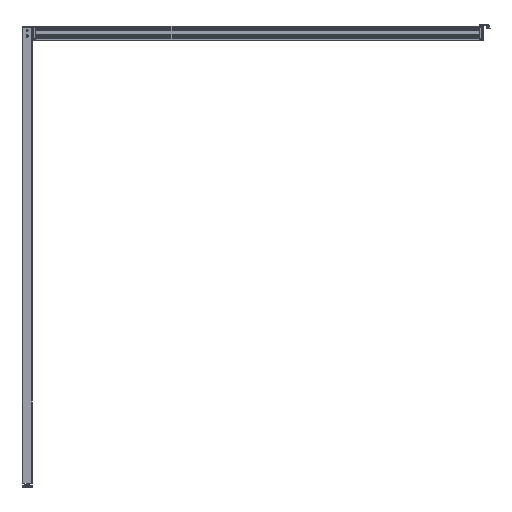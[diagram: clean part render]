
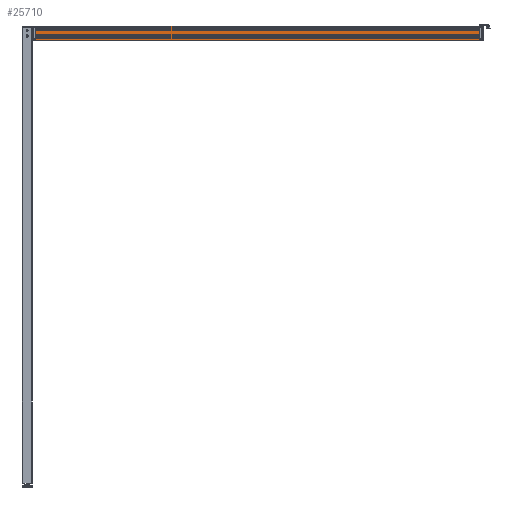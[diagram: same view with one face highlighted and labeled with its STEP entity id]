
A CAD part, left-side view. The second image highlights one B-rep face of the part: STEP entity #25710.
In plain terms, the highlighted planar face has unit normal (-1, 0, 0).
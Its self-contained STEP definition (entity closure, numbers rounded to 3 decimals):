
#2968 = ORIENTED_EDGE ( 'NONE', *, *, #10243, .F. ) ;
#7996 = CARTESIAN_POINT ( 'NONE',  ( 4410., -908.5, 451.784 ) ) ;
#8775 = DIRECTION ( 'NONE',  ( 0., 0., 1. ) ) ;
#9761 = VERTEX_POINT ( 'NONE', #138026 ) ;
#9956 = CARTESIAN_POINT ( 'NONE',  ( 4410., -3604.5, 455.646 ) ) ;
#10243 = EDGE_CURVE ( 'NONE', #136059, #9761, #54904, .T. ) ;
#14787 = DIRECTION ( 'NONE',  ( 0., 0., -1. ) ) ;
#15404 = EDGE_CURVE ( 'NONE', #103835, #136059, #38986, .T. ) ;
#25710 = ADVANCED_FACE ( 'NONE', ( #32764 ), #124974, .T. ) ;
#26390 = LINE ( 'NONE', #51128, #146537 ) ;
#31245 = CARTESIAN_POINT ( 'NONE',  ( 4410., -908.5, 371.646 ) ) ;
#32764 = FACE_OUTER_BOUND ( 'NONE', #39789, .T. ) ;
#38986 = LINE ( 'NONE', #97092, #82687 ) ;
#39789 = EDGE_LOOP ( 'NONE', ( #2968, #88533, #76741, #59635 ) ) ;
#43603 = LINE ( 'NONE', #31245, #95010 ) ;
#44072 = VERTEX_POINT ( 'NONE', #83740 ) ;
#51128 = CARTESIAN_POINT ( 'NONE',  ( 4410., -908.5, 451.784 ) ) ;
#53148 = VECTOR ( 'NONE', #113066, 1000. ) ;
#54904 = LINE ( 'NONE', #138599, #53148 ) ;
#55275 = AXIS2_PLACEMENT_3D ( 'NONE', #7996, #80007, #8775 ) ;
#56376 = EDGE_CURVE ( 'NONE', #103835, #44072, #26390, .T. ) ;
#59635 = ORIENTED_EDGE ( 'NONE', *, *, #62109, .T. ) ;
#62109 = EDGE_CURVE ( 'NONE', #44072, #9761, #43603, .T. ) ;
#73881 = DIRECTION ( 'NONE',  ( 0., -1., 0. ) ) ;
#74259 = CARTESIAN_POINT ( 'NONE',  ( 4410., -908.5, 455.646 ) ) ;
#76741 = ORIENTED_EDGE ( 'NONE', *, *, #56376, .T. ) ;
#80007 = DIRECTION ( 'NONE',  ( -1., 0., 0. ) ) ;
#82687 = VECTOR ( 'NONE', #73881, 1000. ) ;
#83740 = CARTESIAN_POINT ( 'NONE',  ( 4410., -908.5, 371.646 ) ) ;
#88533 = ORIENTED_EDGE ( 'NONE', *, *, #15404, .F. ) ;
#95010 = VECTOR ( 'NONE', #136582, 1000. ) ;
#97092 = CARTESIAN_POINT ( 'NONE',  ( 4410., -908.5, 455.646 ) ) ;
#103835 = VERTEX_POINT ( 'NONE', #74259 ) ;
#113066 = DIRECTION ( 'NONE',  ( 0., 0., -1. ) ) ;
#124974 = PLANE ( 'NONE',  #55275 ) ;
#136059 = VERTEX_POINT ( 'NONE', #9956 ) ;
#136582 = DIRECTION ( 'NONE',  ( 0., -1., 0. ) ) ;
#138026 = CARTESIAN_POINT ( 'NONE',  ( 4410., -3604.5, 371.646 ) ) ;
#138599 = CARTESIAN_POINT ( 'NONE',  ( 4410., -3604.5, 451.784 ) ) ;
#146537 = VECTOR ( 'NONE', #14787, 1000. ) ;
